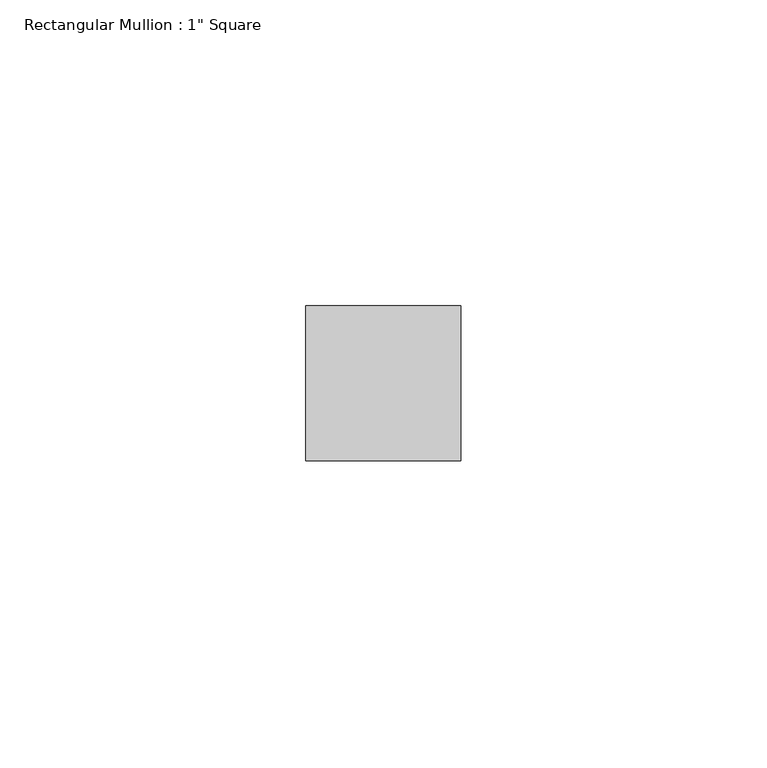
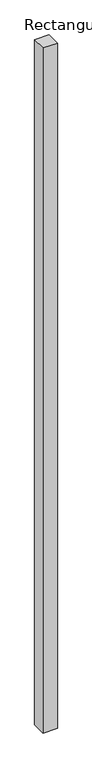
"""IFC4 building model written with IfcOpenShell, lengths in millimetres: member geometry."""

import ifcopenshell
import ifcopenshell.guid

model = None  # the IFC model being written
_history = None  # IfcOwnerHistory: only IFC2X3 demands one
_inside = {}  # id of a spatial element -> (the spatial element, [elements in it])
_under = {}  # id of a project, library or spatial element -> (it, [spatial elements below it])
_declared = {}  # id of a project -> (the project, [libraries it declares])
_typed = {}  # id of a type object -> (the type object, [elements of that type])
_made_of = {}  # id of a material, layer set ... -> (it, [elements and type objects made of it])


def new_model(schema):
    """Start an empty IFC model of exactly this schema.

    Asked for "IFC4X3", IfcOpenShell would pick the latest addendum, in which some entities
    have other attributes; the version numbers below select the first issue.
    IFC2X3 requires an IfcOwnerHistory on every rooted entity: one is made here for all.
    """
    global model, _history
    if schema == "IFC4X3":
        model = ifcopenshell.file(schema_version=(4, 3, 0, 0))
    else:
        model = ifcopenshell.file(schema=schema)
    _inside.clear()
    _under.clear()
    _declared.clear()
    _typed.clear()
    _made_of.clear()
    _history = None
    if model.schema == "IFC2X3":
        org = make("IfcOrganization", Name="unknown")
        user = make(
            "IfcPersonAndOrganization",
            ThePerson=make("IfcPerson", FamilyName="unknown"),
            TheOrganization=org,
        )
        app = make(
            "IfcApplication",
            ApplicationDeveloper=org,
            Version="unknown",
            ApplicationFullName="unknown",
            ApplicationIdentifier="unknown",
        )
        _history = make(
            "IfcOwnerHistory",
            OwningUser=user,
            OwningApplication=app,
            ChangeAction="ADDED",
            CreationDate=0,
        )
    return model


def make(cls, **values):
    """One entity of the class cls with the attributes given. An attribute that is None is left unset."""
    return model.create_entity(
        cls, **{name: value for name, value in values.items() if value is not None}
    )


def rooted(cls, **values):
    """An entity with a GlobalId (a new one), such as an element, a storey or a relation."""
    return make(cls, GlobalId=ifcopenshell.guid.new(), OwnerHistory=_history, **values)


def si_unit(unit_type, name, prefix=None):
    """IfcSIUnit, for example si_unit("LENGTHUNIT", "METRE", prefix="MILLI")."""
    return make("IfcSIUnit", UnitType=unit_type, Prefix=prefix, Name=name)


def assignment(units):
    """IfcUnitAssignment: the units of a project."""
    return None if units is None else make("IfcUnitAssignment", Units=units)


def point(xyz):
    """IfcCartesianPoint."""
    return None if xyz is None else make("IfcCartesianPoint", Coordinates=xyz)


def direction(xyz):
    """IfcDirection."""
    return None if xyz is None else make("IfcDirection", DirectionRatios=xyz)


def frame(location, z_axis=None, x_axis=None):
    """IfcAxis2Placement3D, a coordinate frame: its origin and axes. An axis left out is left unset."""
    return make(
        "IfcAxis2Placement3D",
        Location=point(location),
        Axis=direction(z_axis),
        RefDirection=direction(x_axis),
    )


def origin():
    """The frame at (0, 0, 0) with its axes left unset."""
    return frame((0.0, 0.0, 0.0))


def place(relative_to, where):
    """IfcLocalPlacement: puts the frame where relative to a parent placement (None: the world)."""
    return make(
        "IfcLocalPlacement", PlacementRelTo=relative_to, RelativePlacement=where
    )


def context(
    kind, dimensions, precision=None, world=None, true_north=None, identifier=None
):
    """IfcGeometricRepresentationContext, for example the 3D "Model" context."""
    return make(
        "IfcGeometricRepresentationContext",
        ContextIdentifier=identifier,
        ContextType=kind,
        CoordinateSpaceDimension=dimensions,
        Precision=precision,
        WorldCoordinateSystem=world,
        TrueNorth=true_north,
    )


def project(units=None, contexts=None):
    """IfcProject with its units and contexts."""
    return rooted(
        "IfcProject",
        Name="project",
        RepresentationContexts=contexts,
        UnitsInContext=assignment(units),
    )


def spatial(cls, under=None, at=None, **own):
    """A site, building, storey or space (cls), placed at a placement, below another one or the project."""
    s = rooted(cls, ObjectPlacement=at, **own)
    if under is not None:
        _under.setdefault(under.id(), (under, []))[1].append(s)
    return s


def polyline(points):
    """IfcPolyline through the points."""
    return make("IfcPolyline", Points=[point(p) for p in points])


def outline(outer, holes=None, kind="AREA"):
    """IfcArbitraryClosedProfileDef: a profile drawn as a closed curve; with holes, ...WithVoids."""
    if holes is None:
        return make("IfcArbitraryClosedProfileDef", ProfileType=kind, OuterCurve=outer)
    return make(
        "IfcArbitraryProfileDefWithVoids",
        ProfileType=kind,
        OuterCurve=outer,
        InnerCurves=holes,
    )


def extrude(swept, where, along, depth):
    """IfcExtrudedAreaSolid: the profile swept, set in the frame where, extruded along a direction by depth."""
    return make(
        "IfcExtrudedAreaSolid",
        SweptArea=swept,
        Position=where,
        ExtrudedDirection=direction(along),
        Depth=depth,
    )


def shape(context_of_items, identifier, shape_type, items):
    """IfcShapeRepresentation: the items that make up one representation, for example the "Body"."""
    return make(
        "IfcShapeRepresentation",
        ContextOfItems=context_of_items,
        RepresentationIdentifier=identifier,
        RepresentationType=shape_type,
        Items=items,
    )


def source(mapping_origin, context_of_items, identifier, shape_type, items):
    """IfcRepresentationMap: a shape defined once, which mapped items show again and again."""
    return make(
        "IfcRepresentationMap",
        MappingOrigin=mapping_origin,
        MappedRepresentation=shape(context_of_items, identifier, shape_type, items),
    )


def transform(
    local_origin,
    x_axis=None,
    y_axis=None,
    z_axis=None,
    scale=None,
    scale2=None,
    scale3=None,
    uniform=True,
):
    """IfcCartesianTransformationOperator3D, or its non-uniform kind. x_axis, y_axis, z_axis: its Axis1, 2, 3."""
    if uniform:
        return make(
            "IfcCartesianTransformationOperator3D",
            Axis1=direction(x_axis),
            Axis2=direction(y_axis),
            LocalOrigin=point(local_origin),
            Scale=scale,
            Axis3=direction(z_axis),
        )
    return make(
        "IfcCartesianTransformationOperator3DnonUniform",
        Axis1=direction(x_axis),
        Axis2=direction(y_axis),
        LocalOrigin=point(local_origin),
        Scale=scale,
        Axis3=direction(z_axis),
        Scale2=scale2,
        Scale3=scale3,
    )


def mapped(mapping_source, mapping_target):
    """IfcMappedItem: shows the shape of a source again, moved by a transform."""
    return make(
        "IfcMappedItem", MappingSource=mapping_source, MappingTarget=mapping_target
    )


def made_of(thing, what):
    """Note that an element or type object is made of a material, layer set ...; save() writes the relation."""
    if what is not None:
        _made_of.setdefault(what.id(), (what, []))[1].append(thing)
    return thing


def element(
    cls,
    number,
    at=None,
    inside=None,
    cuts=None,
    type_object=None,
    material=None,
    context=None,
    identifier="Body",
    shape_type=None,
    held_by="IfcProductDefinitionShape",
    body=None,
    shapes=None,
    **own,
):
    """One element of the class cls, such as IfcWall. Its Tag is "e" and its number.

    at: its placement. inside: the storey or other place that contains it. cuts: it is an
    opening in that element (IfcRelVoidsElement). A single representation is given by context,
    identifier, shape_type and body (its items); several are given by shapes. held_by: the class
    of the entity that holds the representations. save() writes the other relations.
    """
    e = rooted(cls, Tag="e%d" % number, ObjectPlacement=at, **own)
    if body is not None:
        shapes = [shape(context, identifier, shape_type, body)]
    if shapes is not None:
        e.Representation = make(held_by, Representations=shapes)
    if inside is not None:
        _inside.setdefault(inside.id(), (inside, []))[1].append(e)
    if cuts is not None:
        rooted(
            "IfcRelVoidsElement", RelatingBuildingElement=cuts, RelatedOpeningElement=e
        )
    if type_object is not None:
        _typed.setdefault(type_object.id(), (type_object, []))[1].append(e)
    return made_of(e, material)


def aggregate(whole, parts):
    """IfcRelAggregates: a whole, such as a stair, and the parts it consists of."""
    return rooted("IfcRelAggregates", RelatingObject=whole, RelatedObjects=parts)


def save(model, path):
    """Write the relations noted so far, then the file.

    IfcRelAggregates (storeys below a building ...), IfcRelContainedInSpatialStructure (elements
    in a storey), IfcRelDefinesByType, IfcRelAssociatesMaterial and IfcRelDeclares: one each for
    every whole, place, type object, material and project.
    """
    for whole, parts in _under.values():
        aggregate(whole, parts)
    for where, things in _inside.values():
        rooted(
            "IfcRelContainedInSpatialStructure",
            RelatedElements=things,
            RelatingStructure=where,
        )
    for kind, things in _typed.values():
        rooted("IfcRelDefinesByType", RelatedObjects=things, RelatingType=kind)
    for what, things in _made_of.values():
        rooted("IfcRelAssociatesMaterial", RelatedObjects=things, RelatingMaterial=what)
    for by, libraries in _declared.values():
        rooted("IfcRelDeclares", RelatingContext=by, RelatedDefinitions=libraries)
    model.write(path)


def member_5673ea5a(model_context):
    return source(origin(), model_context, "Body", "SweptSolid", [
        extrude(outline(polyline([(12.7, 12.7), (12.7, -12.7), (-12.7, -12.7), (-12.7, 12.7), (12.7, 12.7)])), frame((0.0, 0.0, -1281.3499987), z_axis=(0.0, 0.0, 1.0), x_axis=(1.0, 0.0, 0.0)), (0.0, 0.0, 1.0), 1281.3499987),
    ])


if __name__ == "__main__":
    model = new_model("IFC4")
    model_context = context("Model", 3, world=origin())
    ifc_project = project(units=[si_unit("LENGTHUNIT", "METRE", prefix="MILLI")], contexts=[model_context])
    site = spatial("IfcSite", under=ifc_project)
    building = spatial("IfcBuilding", under=site)
    placement = place(None, origin())
    member_shape = member_5673ea5a(model_context)
    element("IfcMember", 1, ObjectType="Rectangular Mullion : 1\" Square", at=placement, inside=building, context=model_context, shape_type="MappedRepresentation", body=[
        mapped(member_shape, transform((0.0, 0.0, 0.0), x_axis=(1.0, 0.0, 0.0), y_axis=(0.0, 1.0, 0.0), z_axis=(0.0, 0.0, 1.0))),
    ])
    save(model, "model.ifc")
